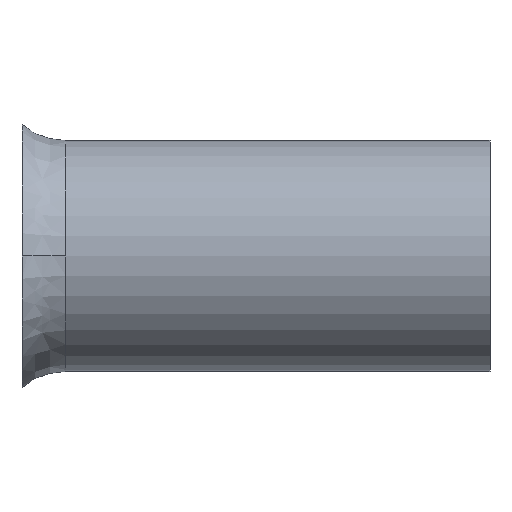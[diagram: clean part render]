
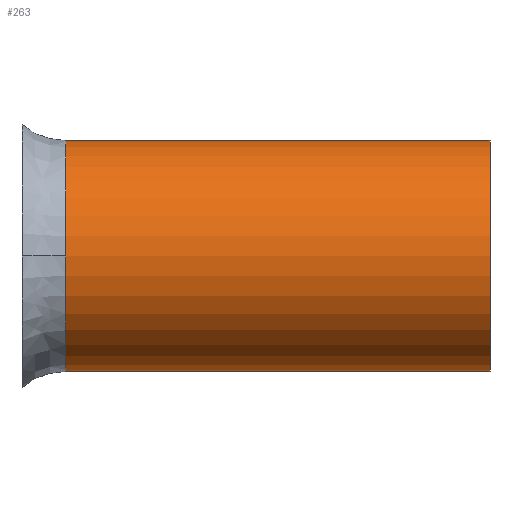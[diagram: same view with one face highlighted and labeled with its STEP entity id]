
A CAD part, left-side view. The second image highlights one B-rep face of the part: STEP entity #263.
In plain terms, the highlighted cylindrical face has radius 3.95 mm (diameter 7.9 mm), a partial arc.
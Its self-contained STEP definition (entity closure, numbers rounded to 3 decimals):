
#9 = ORIENTED_EDGE ( 'NONE', *, *, #317, .F. ) ;
#11 = EDGE_CURVE ( 'NONE', #113, #228, #395, .T. ) ;
#29 = LINE ( 'NONE', #87, #188 ) ;
#31 = AXIS2_PLACEMENT_3D ( 'NONE', #39, #93, #180 ) ;
#38 = ORIENTED_EDGE ( 'NONE', *, *, #11, .T. ) ;
#39 = CARTESIAN_POINT ( 'NONE',  ( 0., 0., 0. ) ) ;
#45 = VERTEX_POINT ( 'NONE', #81 ) ;
#53 = AXIS2_PLACEMENT_3D ( 'NONE', #379, #367, #174 ) ;
#56 = CARTESIAN_POINT ( 'NONE',  ( -3.95, 14.5, 0. ) ) ;
#60 = CIRCLE ( 'NONE', #53, 3.95 ) ;
#81 = CARTESIAN_POINT ( 'NONE',  ( 0., 14.5, 3.95 ) ) ;
#87 = CARTESIAN_POINT ( 'NONE',  ( 0., 0., -3.95 ) ) ;
#93 = DIRECTION ( 'NONE',  ( 0., -1., 0. ) ) ;
#100 = ORIENTED_EDGE ( 'NONE', *, *, #163, .T. ) ;
#105 = ORIENTED_EDGE ( 'NONE', *, *, #128, .T. ) ;
#108 = CIRCLE ( 'NONE', #127, 3.95 ) ;
#113 = VERTEX_POINT ( 'NONE', #56 ) ;
#118 = CARTESIAN_POINT ( 'NONE',  ( 0., 14.5, 0. ) ) ;
#127 = AXIS2_PLACEMENT_3D ( 'NONE', #118, #340, #151 ) ;
#128 = EDGE_CURVE ( 'NONE', #228, #334, #29, .T. ) ;
#133 = ORIENTED_EDGE ( 'NONE', *, *, #146, .F. ) ;
#144 = CARTESIAN_POINT ( 'NONE',  ( 0., 14.5, 0. ) ) ;
#146 = EDGE_CURVE ( 'NONE', #45, #341, #355, .T. ) ;
#148 = DIRECTION ( 'NONE',  ( 0., -1., 0. ) ) ;
#151 = DIRECTION ( 'NONE',  ( 0., 0., -1. ) ) ;
#163 = EDGE_CURVE ( 'NONE', #45, #113, #108, .T. ) ;
#173 = DIRECTION ( 'NONE',  ( 0., 0., -1. ) ) ;
#174 = DIRECTION ( 'NONE',  ( 0., 0., -1. ) ) ;
#179 = CARTESIAN_POINT ( 'NONE',  ( 0., 14.5, -3.95 ) ) ;
#180 = DIRECTION ( 'NONE',  ( 0., 0., -1. ) ) ;
#188 = VECTOR ( 'NONE', #148, 1000. ) ;
#189 = CARTESIAN_POINT ( 'NONE',  ( 0., 0., 3.95 ) ) ;
#202 = CARTESIAN_POINT ( 'NONE',  ( 0., 0., 3.95 ) ) ;
#205 = CYLINDRICAL_SURFACE ( 'NONE', #31, 3.95 ) ;
#228 = VERTEX_POINT ( 'NONE', #179 ) ;
#256 = EDGE_LOOP ( 'NONE', ( #133, #100, #38, #105, #9 ) ) ;
#263 = ADVANCED_FACE ( 'NONE', ( #282 ), #205, .T. ) ;
#271 = CARTESIAN_POINT ( 'NONE',  ( 0., 0., -3.95 ) ) ;
#273 = VECTOR ( 'NONE', #371, 1000. ) ;
#282 = FACE_OUTER_BOUND ( 'NONE', #256, .T. ) ;
#317 = EDGE_CURVE ( 'NONE', #341, #334, #60, .T. ) ;
#334 = VERTEX_POINT ( 'NONE', #271 ) ;
#340 = DIRECTION ( 'NONE',  ( 0., -1., 0. ) ) ;
#341 = VERTEX_POINT ( 'NONE', #189 ) ;
#355 = LINE ( 'NONE', #202, #273 ) ;
#365 = DIRECTION ( 'NONE',  ( 0., -1., 0. ) ) ;
#367 = DIRECTION ( 'NONE',  ( 0., -1., 0. ) ) ;
#371 = DIRECTION ( 'NONE',  ( 0., -1., 0. ) ) ;
#373 = AXIS2_PLACEMENT_3D ( 'NONE', #144, #365, #173 ) ;
#379 = CARTESIAN_POINT ( 'NONE',  ( 0., 0., 0. ) ) ;
#395 = CIRCLE ( 'NONE', #373, 3.95 ) ;
